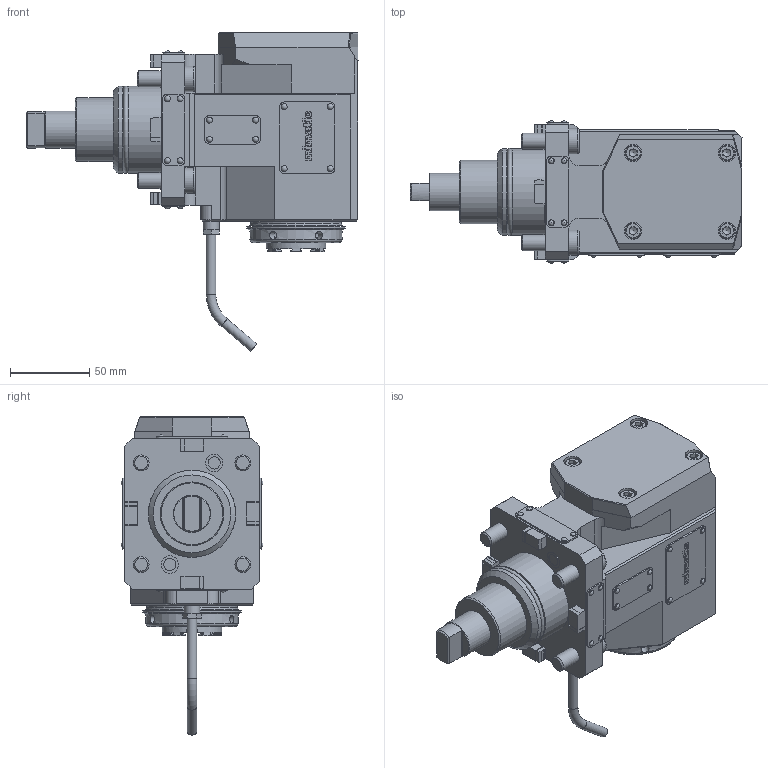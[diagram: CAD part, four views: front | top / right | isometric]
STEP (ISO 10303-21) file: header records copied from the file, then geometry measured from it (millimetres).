
FILE_DESCRIPTION(/* description */ (''),/* implementation_level */ '2;1');
FILE_NAME(/* name */ '202570-UNI',/* time_stamp */ '2023-04-19T12:54:49+02:00',/* author */ (''),/* organization */ (''),/* preprocessor_version */ 'ST-DEVELOPER v16.5',/* originating_system */ 'HiCAD 2017 2201.0 Build 268',/* authorisation */ '');
FILE_SCHEMA (('AUTOMOTIVE_DESIGN { 1 0 10303 214 1 1 1 1 }'));
Products named in the file (2): Root; Teil
Assembly tree (1 placements, depth 2):
  Root
    Teil
Bounding box: 209 x 89.6 x 200.37 mm (x, y, z)
Volume: 1122721.3 mm3; surface area: 106483.1 mm2
Topology: 1 solids, 26 shells, 955 faces, 2382 edges, 1562 vertices
Faces by surface type: plane 648, cylinder 200, cone 36, torus 27, sphere 24, bspline 20
Full cylindrical faces by diameter (mm): 2 x24, 2.2 x8, 2.3 x16, 4 x2, 5.1 x6, 6 x2, 7.65 x2, 10 x9, 11 x4, 11.01 x2, 16 x4, 20 x1, 23.5 x1, 24 x1, 27 x2, 29 x1, 29.4 x1, 37.5 x1, 38 x1, 38.5 x2, 40 x2, 40.501 x1, 49.6 x2, 54.9 x2, 55 x1, 58 x1, 62 x1
Entity records: 55652 total; most frequent: CARTESIAN_POINT 12793, DIRECTION 4437, PRESENTATION_STYLE_ASSIGNMENT 4261, COLOUR_RGB 4261, DRAUGHTING_PRE_DEFINED_CURVE_FONT 4260, CURVE_STYLE 4260, OVER_RIDING_STYLED_ITEM 4260, ORIENTED_EDGE 4260
